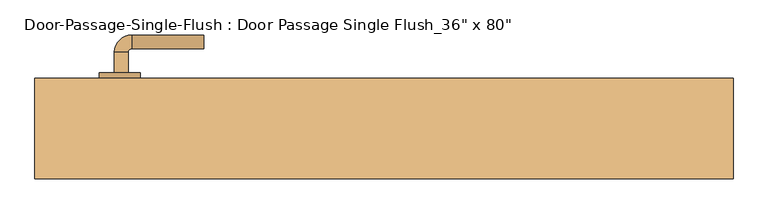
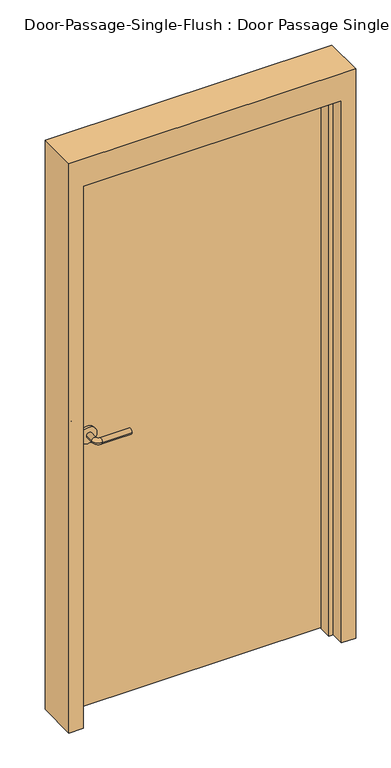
"""IFC4 building model written with IfcOpenShell, lengths in millimetres: door geometry."""

from ifc_helpers import new_model, si_unit, point, frame, frame_2d, origin, origin_with_axes, place, context, project, spatial, polyline, circle_curve, ellipse_curve, trimmed, segment, composite_curve, outline, extrude, faceted_brep, source, transform, mapped, element, save
from ifc_brep_helpers import plane_surface, cylinder_surface, revolved_surface, advanced_brep


def door_9c0c0bcf(model_context):
    return source(origin(), model_context, "Body", "SolidModel", [
        advanced_brep(
        [(-392.190625, 12.6375, 1016.0), (-372.190625, 12.6375, 1016.0), (-372.190625, -17.3625, 1016.0), (-392.190625, -17.3625, 1016.0), (-367.190625, -22.3625, 1016.0), (-367.190625, -42.3625, 1016.0), (-262.190625, -42.3625, 1016.0), (-262.190625, -22.3625, 1016.0)],
        [
            (0, 1, circle_curve(frame((-382.190625, 12.6375, 1016.0), z_axis=(0.0, 1.0, 0.0), x_axis=(1.0, 0.0, 0.0)), 10.0)),
            (1, 0, circle_curve(frame((-382.190625, 12.6375, 1016.0), z_axis=(0.0, 1.0, 0.0), x_axis=(1.0, 0.0, 0.0)), 10.0)),
            (1, 2),
            (2, 3, circle_curve(frame((-382.190625, -17.3625, 1016.0), z_axis=(0.0, 1.0, 0.0), x_axis=(1.0, 0.0, 0.0)), 10.0)),
            (3, 0),
            (3, 2, circle_curve(frame((-382.190625, -17.3625, 1016.0), z_axis=(0.0, 1.0, 0.0), x_axis=(1.0, 0.0, 0.0)), 10.0)),
            (4, 5, circle_curve(frame((-367.190625, -32.3625, 1016.0), z_axis=(-1.0, 0.0, 0.0), x_axis=(0.0, 1.0, 0.0)), 10.0)),
            (5, 3, circle_curve(frame((-367.190625, -17.3625, 1016.0), z_axis=(0.0, 0.0, -1.0), x_axis=(-1.0, 0.0, 0.0)), 25.0)),
            (2, 4, circle_curve(frame((-367.190625, -17.3625, 1016.0), z_axis=(0.0, 0.0, 1.0), x_axis=(-1.0, 0.0, 0.0)), 5.0)),
            (5, 4, circle_curve(frame((-367.190625, -32.3625, 1016.0), z_axis=(-1.0, 0.0, 0.0), x_axis=(0.0, 1.0, 0.0)), 10.0)),
            (6, 7, circle_curve(frame((-262.190625, -32.3625, 1016.0), z_axis=(1.0, 0.0, 0.0), x_axis=(0.0, 1.0, 0.0)), 10.0)),
            (7, 6, circle_curve(frame((-262.190625, -32.3625, 1016.0), z_axis=(1.0, 0.0, 0.0), x_axis=(0.0, 1.0, 0.0)), 10.0)),
            (4, 7),
            (6, 5),
        ],
        [
            plane_surface(frame((-382.190625, 12.6375, 1016.0), z_axis=(0.0, 1.0, 0.0), x_axis=(0.0, 0.0, 1.0))),
            cylinder_surface(frame((-382.190625, 12.6375, 1016.0), z_axis=(0.0, 1.0, 0.0), x_axis=(1.0, 0.0, 0.0)), 10.0),
            revolved_surface(trimmed(ellipse_curve(frame((-382.190625, -17.3625, 1016.0), z_axis=(0.0, -1.0, 0.0), x_axis=(1.0, 0.0, 0.0)), 10.0, 10.0), [point((-392.190625, -17.3625, 1016.0))], [point((-372.190625, -17.3625, 1016.0))], True, "CARTESIAN"), (-367.190625, -17.3625, 1016.0), (0.0, 0.0, -1.0)),
            revolved_surface(trimmed(ellipse_curve(frame((-382.190625, -17.3625, 1016.0), z_axis=(0.0, -1.0, 0.0), x_axis=(1.0, 0.0, 0.0)), 10.0, 10.0), [point((-372.190625, -17.3625, 1016.0))], [point((-392.190625, -17.3625, 1016.0))], True, "CARTESIAN"), (-367.190625, -17.3625, 1016.0), (0.0, 0.0, -1.0)),
            plane_surface(frame((-262.190625, -32.3625, 1016.0), z_axis=(1.0, 0.0, 0.0), x_axis=(0.0, 0.0, 1.0))),
            cylinder_surface(frame((-367.190625, -32.3625, 1016.0), z_axis=(-1.0, 0.0, 0.0), x_axis=(0.0, 1.0, 0.0)), 10.0),
        ],
        [
            (0, [[1, 2]]),
            (1, [[3, 4, 5, -2]]),
            (1, [[-5, 6, -3, -1]]),
            (2, [[7, 8, -4, 9]]),
            (3, [[10, -9, -6, -8]]),
            (4, [[11, 12]]),
            (5, [[13, -11, 14, -7]]),
            (5, [[-14, -12, -13, -10]]),
        ],
    ),
        extrude(outline(composite_curve([segment(trimmed(circle_curve(frame_2d((1016.0, -384.690625)), 30.0), [point((1016.0, -414.690625))], [point((1016.0, -354.690625))], False, "CARTESIAN"), True, "CONTINUOUS"), segment(trimmed(circle_curve(frame_2d((1016.0, -384.690625)), 30.0), [point((1016.0, -354.690625))], [point((1016.0, -414.690625))], False, "CARTESIAN"), True, "CONTINUOUS")], self_intersect=False)), frame((0.0, 12.6375, 0.0), z_axis=(0.0, 1.0, 0.0), x_axis=(0.0, 0.0, 1.0)), (0.0, 0.0, 1.0), 8.0),
        advanced_brep(
        [(-392.190625, 73.0875, 1016.0), (-372.190625, 73.0875, 1016.0), (-392.190625, 103.0875, 1016.0), (-372.190625, 103.0875, 1016.0), (-367.190625, 108.0875, 1016.0), (-367.190625, 128.0875, 1016.0), (-262.190625, 128.0875, 1016.0), (-262.190625, 108.0875, 1016.0)],
        [
            (0, 1, circle_curve(frame((-382.190625, 73.0875, 1016.0), z_axis=(0.0, -1.0, 0.0), x_axis=(1.0, 0.0, 0.0)), 10.0)),
            (1, 0, circle_curve(frame((-382.190625, 73.0875, 1016.0), z_axis=(0.0, -1.0, 0.0), x_axis=(1.0, 0.0, 0.0)), 10.0)),
            (0, 2),
            (2, 3, circle_curve(frame((-382.190625, 103.0875, 1016.0), z_axis=(0.0, -1.0, 0.0), x_axis=(1.0, 0.0, 0.0)), 10.0)),
            (3, 1),
            (3, 2, circle_curve(frame((-382.190625, 103.0875, 1016.0), z_axis=(0.0, -1.0, 0.0), x_axis=(1.0, 0.0, 0.0)), 10.0)),
            (4, 3, circle_curve(frame((-367.190625, 103.0875, 1016.0), z_axis=(0.0, 0.0, 1.0), x_axis=(-1.0, 0.0, 0.0)), 5.0)),
            (2, 5, circle_curve(frame((-367.190625, 103.0875, 1016.0), z_axis=(0.0, 0.0, -1.0), x_axis=(-1.0, 0.0, 0.0)), 25.0)),
            (5, 4, circle_curve(frame((-367.190625, 118.0875, 1016.0), z_axis=(-1.0, 0.0, 0.0), x_axis=(0.0, -1.0, 0.0)), 10.0)),
            (4, 5, circle_curve(frame((-367.190625, 118.0875, 1016.0), z_axis=(-1.0, 0.0, 0.0), x_axis=(0.0, -1.0, 0.0)), 10.0)),
            (6, 7, circle_curve(frame((-262.190625, 118.0875, 1016.0), z_axis=(1.0, 0.0, 0.0), x_axis=(0.0, -1.0, 0.0)), 10.0)),
            (7, 6, circle_curve(frame((-262.190625, 118.0875, 1016.0), z_axis=(1.0, 0.0, 0.0), x_axis=(0.0, -1.0, 0.0)), 10.0)),
            (5, 6),
            (7, 4),
        ],
        [
            plane_surface(frame((-382.190625, 73.0875, 1016.0), z_axis=(0.0, -1.0, 0.0), x_axis=(0.0, 0.0, 1.0))),
            cylinder_surface(frame((-382.190625, 73.0875, 1016.0), z_axis=(0.0, -1.0, 0.0), x_axis=(1.0, 0.0, 0.0)), 10.0),
            revolved_surface(trimmed(ellipse_curve(frame((-382.190625, 103.0875, 1016.0), z_axis=(0.0, -1.0, 0.0), x_axis=(1.0, 0.0, 0.0)), 10.0, 10.0), [point((-392.190625, 103.0875, 1016.0))], [point((-372.190625, 103.0875, 1016.0))], True, "CARTESIAN"), (-367.190625, 103.0875, 1016.0), (0.0, 0.0, -1.0)),
            revolved_surface(trimmed(ellipse_curve(frame((-382.190625, 103.0875, 1016.0), z_axis=(0.0, -1.0, 0.0), x_axis=(1.0, 0.0, 0.0)), 10.0, 10.0), [point((-372.190625, 103.0875, 1016.0))], [point((-392.190625, 103.0875, 1016.0))], True, "CARTESIAN"), (-367.190625, 103.0875, 1016.0), (0.0, 0.0, -1.0)),
            plane_surface(frame((-262.190625, 118.0875, 1016.0), z_axis=(1.0, 0.0, 0.0), x_axis=(0.0, 0.0, 1.0))),
            cylinder_surface(frame((-367.190625, 118.0875, 1016.0), z_axis=(-1.0, 0.0, 0.0), x_axis=(0.0, -1.0, 0.0)), 10.0),
        ],
        [
            (0, [[1, 2]]),
            (1, [[-1, 3, 4, 5]]),
            (1, [[-2, -5, 6, -3]]),
            (2, [[7, -4, 8, 9]]),
            (3, [[-8, -6, -7, 10]]),
            (4, [[11, 12]]),
            (5, [[-9, 13, -12, 14]]),
            (5, [[-10, -14, -11, -13]]),
        ],
    ),
        extrude(outline(composite_curve([segment(trimmed(circle_curve(frame_2d((1016.0, -384.690625)), 30.0), [point((1016.0, -414.690625))], [point((1016.0, -354.690625))], False, "CARTESIAN"), True, "CONTINUOUS"), segment(trimmed(circle_curve(frame_2d((1016.0, -384.690625)), 30.0), [point((1016.0, -354.690625))], [point((1016.0, -414.690625))], False, "CARTESIAN"), True, "CONTINUOUS")], self_intersect=False)), frame((0.0, 65.0875, 0.0), z_axis=(0.0, 1.0, 0.0), x_axis=(0.0, 0.0, 1.0)), (0.0, 0.0, 1.0), 8.0),
        faceted_brep([(457.2, 15.875, 0.0), (457.2, 65.0875, 0.0), (508.0, 65.0875, 0.0), (508.0, -80.9625, 0.0), (457.2, -80.9625, 0.0), (457.2, -31.75, 0.0), (441.325, -31.75, 0.0), (441.325, 15.875, 0.0), (457.2, 15.875, 2032.0), (457.2, 65.0875, 2032.0), (-457.2, 65.0875, 2032.0), (-457.2, 65.0875, 0.0), (-508.0, 65.0875, 0.0), (-508.0, 65.0875, 2133.6), (508.0, 65.0875, 2133.6), (508.0, -80.9625, 2133.6), (-508.0, -80.9625, 2133.6), (-508.0, -80.9625, 0.0), (-457.2, -80.9625, 0.0), (-457.2, -80.9625, 2032.0), (457.2, -80.9625, 2032.0), (457.2, -31.75, 2032.0), (-457.2, -31.75, 2032.0), (-457.2, -31.75, 0.0), (-441.325, -31.75, 0.0), (-441.325, -31.75, 2016.125), (441.325, -31.75, 2016.125), (441.325, 15.875, 2016.125), (-441.325, 15.875, 2016.125), (-441.325, 15.875, 0.0), (-457.2, 15.875, 0.0), (-457.2, 15.875, 2032.0)], [[[0, 1, 2, 3, 4, 5, 6, 7]], [[1, 0, 8, 9]], [[2, 1, 9, 10, 11, 12, 13, 14]], [[3, 2, 14, 15]], [[4, 3, 15, 16, 17, 18, 19, 20]], [[5, 4, 20, 21]], [[6, 5, 21, 22, 23, 24, 25, 26]], [[7, 6, 26, 27]], [[0, 7, 27, 28, 29, 30, 31, 8]], [[9, 8, 31, 10]], [[20, 19, 22, 21]], [[26, 25, 28, 27]], [[12, 11, 30, 29, 24, 23, 18, 17]], [[11, 10, 31, 30]], [[13, 12, 17, 16]], [[19, 18, 23, 22]], [[25, 24, 29, 28]], [[15, 14, 13, 16]]]),
        extrude(outline(polyline([(457.2, 20.6375), (-457.2, 20.6375), (-457.2, 65.0875), (457.2, 65.0875), (457.2, 20.6375)])), origin_with_axes(), (0.0, 0.0, 1.0), 2032.0),
    ])


if __name__ == "__main__":
    model = new_model("IFC4")
    model_context = context("Model", 3, world=origin())
    ifc_project = project(units=[si_unit("LENGTHUNIT", "METRE", prefix="MILLI")], contexts=[model_context])
    site = spatial("IfcSite", under=ifc_project)
    building = spatial("IfcBuilding", under=site)
    placement = place(None, origin())
    door_shape = door_9c0c0bcf(model_context)
    element("IfcDoor", 1, ObjectType="Door-Passage-Single-Flush : Door Passage Single Flush_36\" x 80\"", at=placement, inside=building, context=model_context, shape_type="MappedRepresentation", body=[
        mapped(door_shape, transform((0.0, 0.0, 0.0), x_axis=(1.0, 0.0, 0.0), y_axis=(0.0, 1.0, 0.0), z_axis=(0.0, 0.0, 1.0))),
    ])
    save(model, "model.ifc")
